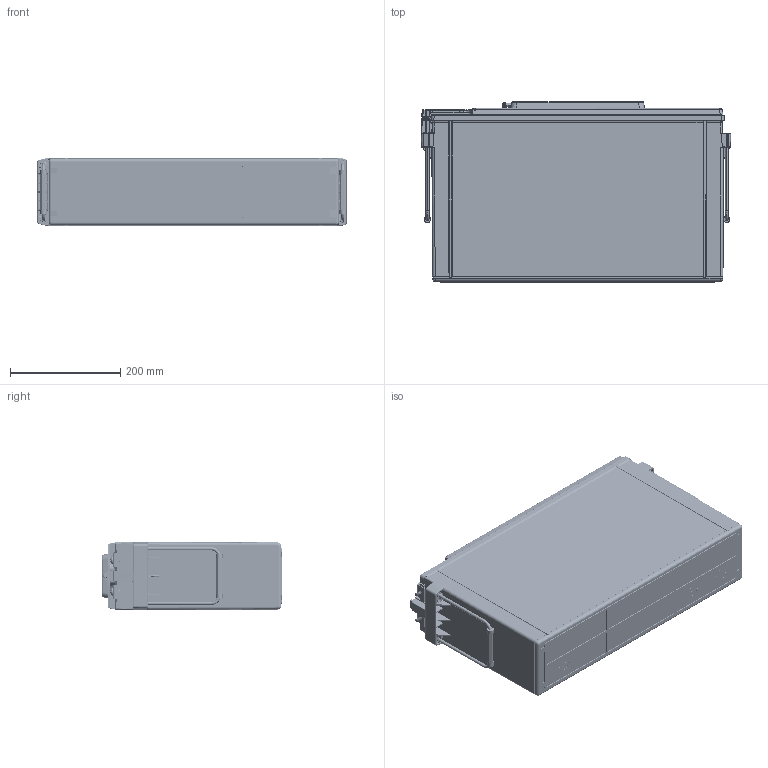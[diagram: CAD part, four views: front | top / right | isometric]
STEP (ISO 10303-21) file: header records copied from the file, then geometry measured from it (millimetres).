
FILE_DESCRIPTION (( 'STEP AP203' ), '1' );
FILE_NAME ('ODS-AGM390FTT.STEP', '2024-06-05T14:57:57', ( '' ), ( '' ), 'SwSTEP 2.0', 'SolidWorks 2023', '' );
FILE_SCHEMA (( 'CONFIG_CONTROL_DESIGN' ));
Products named in the file (1): ODS-AGM390FTT
Bounding box: 561.01 x 327 x 125 mm (x, y, z)
Surface area: 1728946.6 mm2 (no closed solid volume)
Topology: 0 solids, 37 shells, 9256 faces, 24758 edges, 15903 vertices
Faces by surface type: plane 6411, cylinder 1493, bspline 636, torus 300, cone 238, sphere 178
Entity records: 324708 total; most frequent: CARTESIAN_POINT 99531, ORIENTED_EDGE 49336, DIRECTION 42295, EDGE_CURVE 24672, LINE 18855, VECTOR 18855, VERTEX_POINT 15891, AXIS2_PLACEMENT_3D 11720
